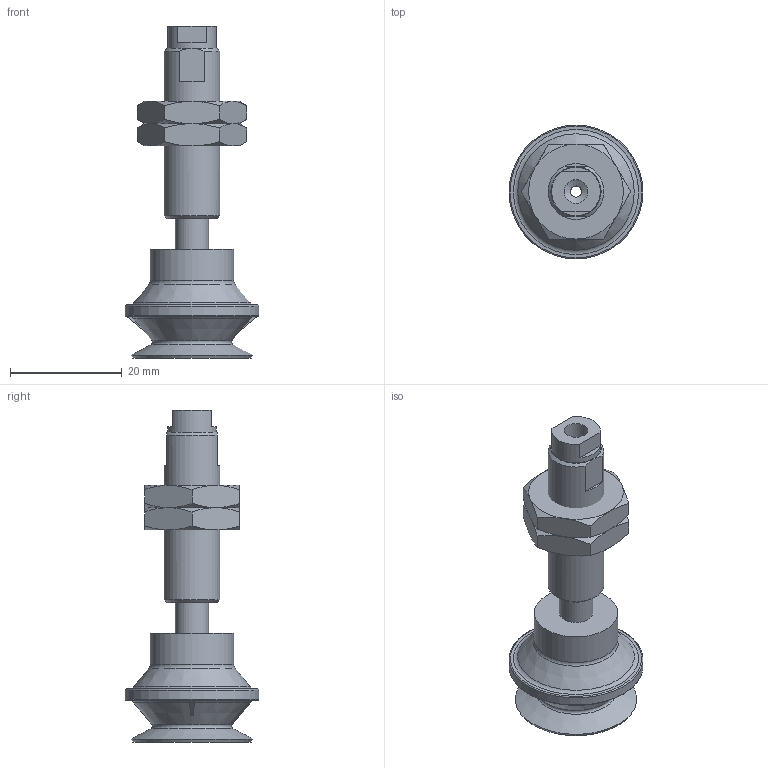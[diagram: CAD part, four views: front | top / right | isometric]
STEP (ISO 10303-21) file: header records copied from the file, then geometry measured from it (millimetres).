
FILE_DESCRIPTION(('STEP AP203'),'1');
FILE_NAME('-LB.stp','2025-04-02T02:38:51',(' '),(' '),'Spatial InterOp 3D',' ',' ');
FILE_SCHEMA(('CONFIG_CONTROL_DESIGN'));
Length unit declared in the file: millimetre
Products named in the file (7): BNABPBTH-20-5-※-LB; __; BODY; NUT; BPBG-20-※; TN-PF-20-M5
Assembly tree (6 placements, depth 2):
  BNABPBTH-20-5-※-LB
    __
    BODY
    NUT
    NUT
    BPBG-20-※
    TN-PF-20-M5
Bounding box: 24 x 24 x 59.5 mm (x, y, z)
Volume: 7527.5 mm3; surface area: 6090.8 mm2
Topology: 6 solids, 6 shells, 123 faces, 265 edges, 159 vertices
Faces by surface type: plane 55, cone 41, cylinder 17, torus 10
Full cylindrical faces by diameter (mm): 2 x1, 2.5 x1, 3 x1, 4.2 x2, 4.6 x1, 5 x1, 6 x1, 8 x1, 8.7 x1, 9 x2, 10 x1, 10.8 x1, 11 x1, 15 x1, 24 x1
Entity records: 3496 total; most frequent: CARTESIAN_POINT 704, DIRECTION 528, ORIENTED_EDGE 434, AXIS2_PLACEMENT_3D 233, EDGE_CURVE 217, EDGE_LOOP 178, VERTEX_POINT 149, FACE_OUTER_BOUND 148
